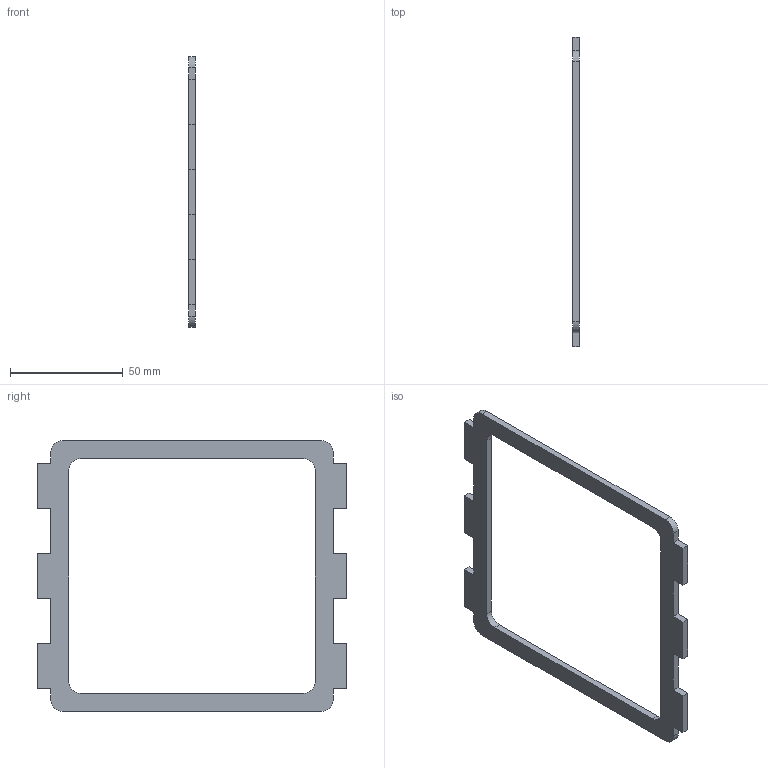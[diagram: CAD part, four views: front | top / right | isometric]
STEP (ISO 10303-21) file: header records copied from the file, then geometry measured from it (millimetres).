
FILE_DESCRIPTION(/* description */ (''),/* implementation_level */ '2;1');
FILE_NAME(/* name */ 'Front 2 v10.step',/* time_stamp */ '2023-09-02T21:53:13+03:00',/* author */ (''),/* organization */ (''),/* preprocessor_version */ 'ST-DEVELOPER v20',/* originating_system */ 'Autodesk Translation Framework v12.9.0.99',/* authorisation */ '');
FILE_SCHEMA (('AUTOMOTIVE_DESIGN { 1 0 10303 214 3 1 1 }'));
Length unit declared in the file: millimetre
Products named in the file (1): Front 2
Bounding box: 3 x 137 x 120 mm (x, y, z)
Volume: 13152 mm3; surface area: 11680.5 mm2
Topology: 1 solids, 1 shells, 42 faces, 120 edges, 80 vertices
Faces by surface type: plane 34, cylinder 8
Entity records: 1397 total; most frequent: CARTESIAN_POINT 243, ORIENTED_EDGE 240, DIRECTION 222, EDGE_CURVE 120, LINE 104, VECTOR 104, VERTEX_POINT 80, AXIS2_PLACEMENT_3D 59
